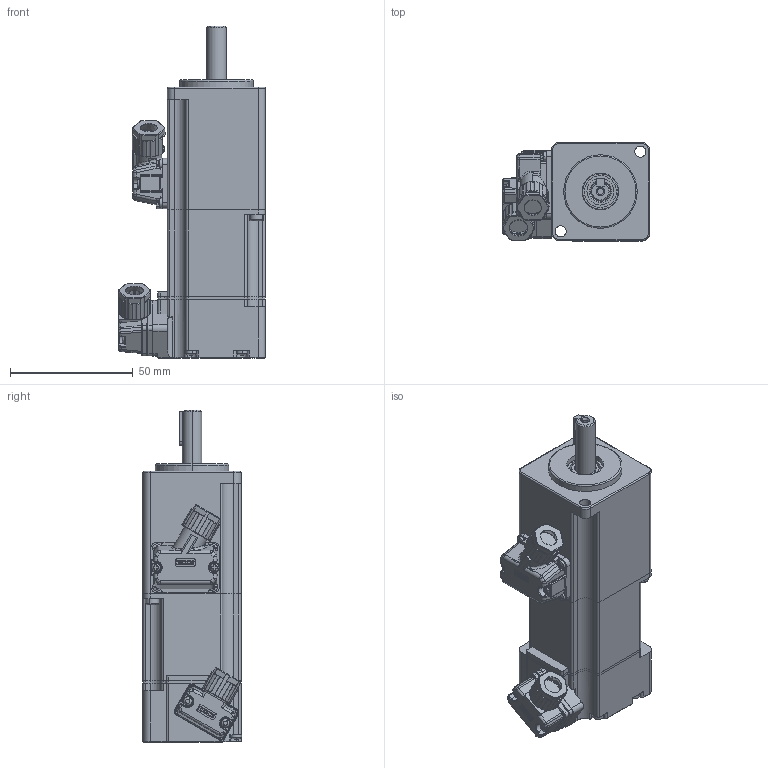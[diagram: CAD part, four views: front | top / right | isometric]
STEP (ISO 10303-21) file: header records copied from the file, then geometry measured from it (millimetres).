
FILE_DESCRIPTION (( 'STEP AP203' ), '1' );
FILE_NAME ('WB40ST-Z1M00330总装-插拔式-2024(新联款插拔).STEP', '2024-11-08T09:18:09', ( 'lvbing' ), ( 'WG' ), 'SwSTEP 2.0', 'SolidWorks 2018', '' );
FILE_SCHEMA (( 'CONFIG_CONTROL_DESIGN' ));
Length unit declared in the file: millimetre
Products named in the file (2): WB40ST-Z1M00330总装-插拔式-2024(新联款插拔)
Bounding box: 59.95 x 40.44 x 135.5 mm (x, y, z)
Surface area: 28561.9 mm2 (no closed solid volume)
Topology: 0 solids, 26 shells, 1209 faces, 4276 edges, 2945 vertices
Faces by surface type: cylinder 451, plane 451, torus 140, bspline 114, sphere 36, cone 17
Entity records: 50037 total; most frequent: CARTESIAN_POINT 15432, ORIENTED_EDGE 6949, DIRECTION 6750, EDGE_CURVE 4268, VERTEX_POINT 2945, AXIS2_PLACEMENT_3D 2419, LINE 1912, VECTOR 1912
